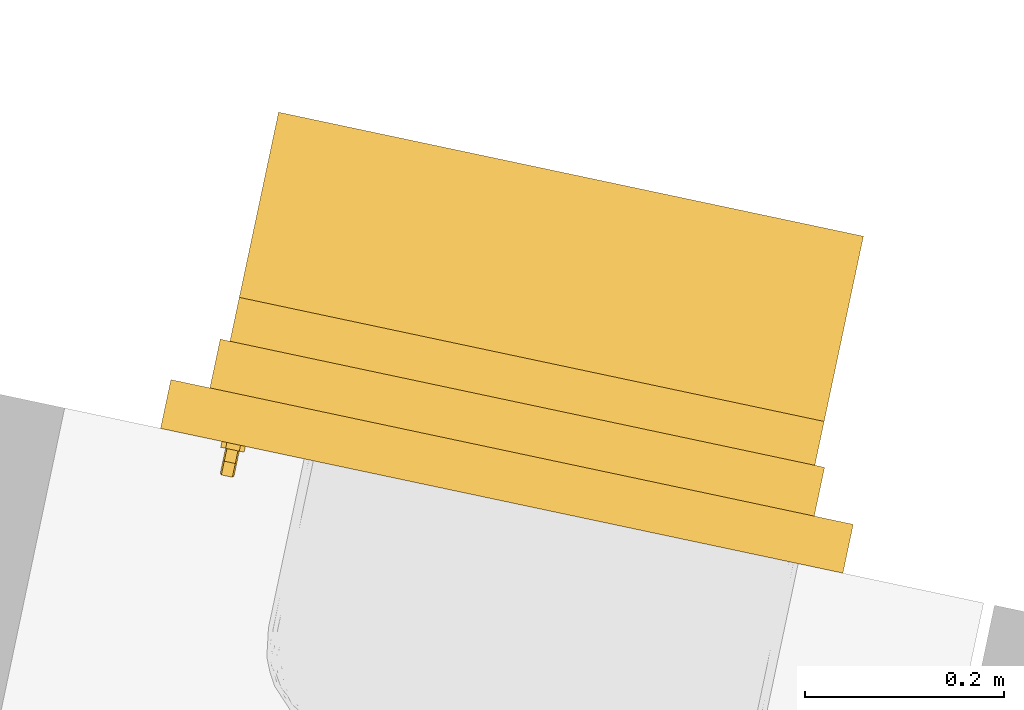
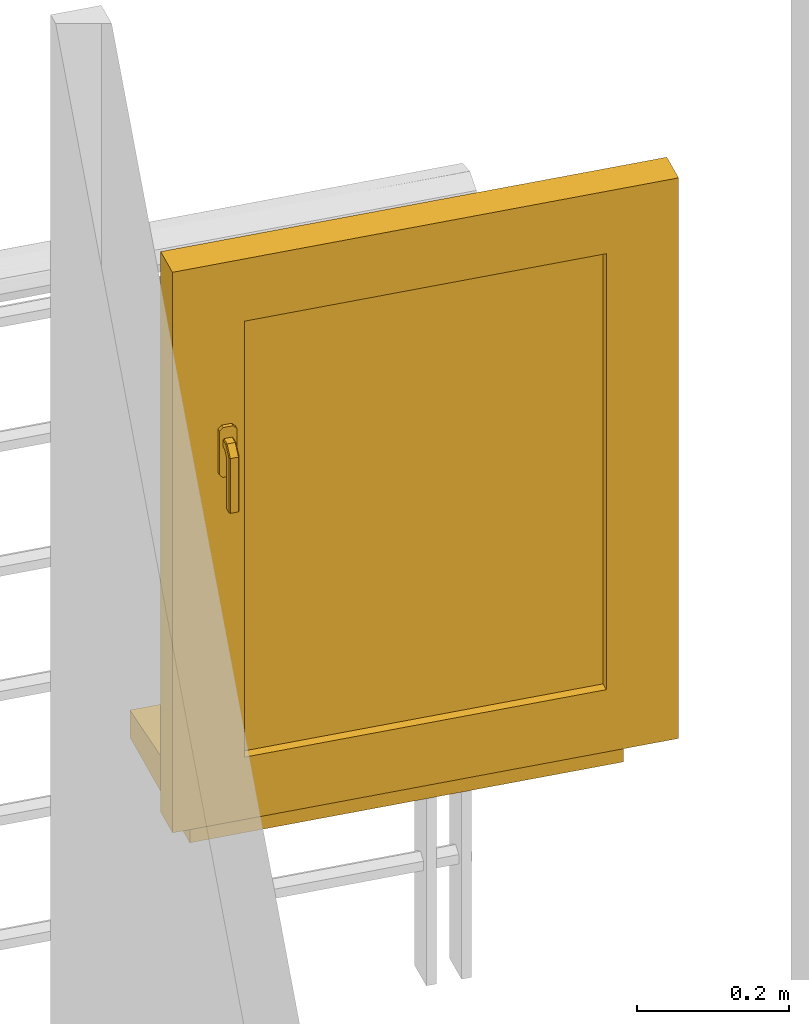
# One storey, part 14 of 18: 1 window.
"""IFC2X3 building model written with IfcOpenShell, lengths in metres."""

import ifcopenshell
import ifcopenshell.guid

model = None  # the IFC model being written
_history = None  # IfcOwnerHistory: only IFC2X3 demands one
_inside = {}  # id of a spatial element -> (the spatial element, [elements in it])
_under = {}  # id of a project, library or spatial element -> (it, [spatial elements below it])
_declared = {}  # id of a project -> (the project, [libraries it declares])
_typed = {}  # id of a type object -> (the type object, [elements of that type])
_made_of = {}  # id of a material, layer set ... -> (it, [elements and type objects made of it])


def new_model(schema):
    """Start an empty IFC model of exactly this schema.

    Asked for "IFC4X3", IfcOpenShell would pick the latest addendum, in which some entities
    have other attributes; the version numbers below select the first issue.
    IFC2X3 requires an IfcOwnerHistory on every rooted entity: one is made here for all.
    """
    global model, _history
    if schema == "IFC4X3":
        model = ifcopenshell.file(schema_version=(4, 3, 0, 0))
    else:
        model = ifcopenshell.file(schema=schema)
    _inside.clear()
    _under.clear()
    _declared.clear()
    _typed.clear()
    _made_of.clear()
    _history = None
    if model.schema == "IFC2X3":
        org = make("IfcOrganization", Name="unknown")
        user = make(
            "IfcPersonAndOrganization",
            ThePerson=make("IfcPerson", FamilyName="unknown"),
            TheOrganization=org,
        )
        app = make(
            "IfcApplication",
            ApplicationDeveloper=org,
            Version="unknown",
            ApplicationFullName="unknown",
            ApplicationIdentifier="unknown",
        )
        _history = make(
            "IfcOwnerHistory",
            OwningUser=user,
            OwningApplication=app,
            ChangeAction="ADDED",
            CreationDate=0,
        )
    return model


def make(cls, **values):
    """One entity of the class cls with the attributes given. An attribute that is None is left unset."""
    return model.create_entity(
        cls, **{name: value for name, value in values.items() if value is not None}
    )


def entity(cls, *values):
    """Any entity or typed value of the class cls, its attributes in the order of the schema. None: left unset."""
    e = model.create_entity(cls)
    for i, value in enumerate(values):
        if value is not None:
            e[i] = value
    return e


def rooted(cls, **values):
    """An entity with a GlobalId (a new one), such as an element, a storey or a relation."""
    return make(cls, GlobalId=ifcopenshell.guid.new(), OwnerHistory=_history, **values)


def si_unit(unit_type, name, prefix=None):
    """IfcSIUnit, for example si_unit("LENGTHUNIT", "METRE", prefix="MILLI")."""
    return make("IfcSIUnit", UnitType=unit_type, Prefix=prefix, Name=name)


def converted_unit(unit_type, name, factor, base, dimensions=None, offset=None):
    """IfcConversionBasedUnit, such as the inch: factor (a typed value) times the base unit."""
    return make(
        "IfcConversionBasedUnit"
        if offset is None
        else "IfcConversionBasedUnitWithOffset",
        ConversionOffset=offset,
        Dimensions=None
        if dimensions is None
        else entity("IfcDimensionalExponents", *dimensions),
        UnitType=unit_type,
        Name=name,
        ConversionFactor=make(
            "IfcMeasureWithUnit", ValueComponent=factor, UnitComponent=base
        ),
    )


def derived_unit(unit_type, elements):
    """IfcDerivedUnit: a product of units, each with its exponent."""
    return make(
        "IfcDerivedUnit",
        Elements=[
            make("IfcDerivedUnitElement", Unit=unit, Exponent=power)
            for unit, power in elements
        ],
        UnitType=unit_type,
    )


def assignment(units):
    """IfcUnitAssignment: the units of a project."""
    return None if units is None else make("IfcUnitAssignment", Units=units)


def point(xyz):
    """IfcCartesianPoint."""
    return None if xyz is None else make("IfcCartesianPoint", Coordinates=xyz)


def direction(xyz):
    """IfcDirection."""
    return None if xyz is None else make("IfcDirection", DirectionRatios=xyz)


def frame(location, z_axis=None, x_axis=None):
    """IfcAxis2Placement3D, a coordinate frame: its origin and axes. An axis left out is left unset."""
    return make(
        "IfcAxis2Placement3D",
        Location=point(location),
        Axis=direction(z_axis),
        RefDirection=direction(x_axis),
    )


def origin():
    """The frame at (0, 0, 0) with its axes left unset."""
    return frame((0.0, 0.0, 0.0))


def place(relative_to, where):
    """IfcLocalPlacement: puts the frame where relative to a parent placement (None: the world)."""
    return make(
        "IfcLocalPlacement", PlacementRelTo=relative_to, RelativePlacement=where
    )


def context(
    kind, dimensions, precision=None, world=None, true_north=None, identifier=None
):
    """IfcGeometricRepresentationContext, for example the 3D "Model" context."""
    return make(
        "IfcGeometricRepresentationContext",
        ContextIdentifier=identifier,
        ContextType=kind,
        CoordinateSpaceDimension=dimensions,
        Precision=precision,
        WorldCoordinateSystem=world,
        TrueNorth=true_north,
    )


def subcontext(parent, identifier, kind, view, scale=None):
    """IfcGeometricRepresentationSubContext, for example "Body" below "Model"."""
    return make(
        "IfcGeometricRepresentationSubContext",
        ContextIdentifier=identifier,
        ContextType=kind,
        ParentContext=parent,
        TargetScale=scale,
        TargetView=view,
    )


def project(units=None, contexts=None):
    """IfcProject with its units and contexts."""
    return rooted(
        "IfcProject",
        Name="project",
        RepresentationContexts=contexts,
        UnitsInContext=assignment(units),
    )


def spatial(cls, under=None, at=None, **own):
    """A site, building, storey or space (cls), placed at a placement, below another one or the project."""
    s = rooted(cls, ObjectPlacement=at, **own)
    if under is not None:
        _under.setdefault(under.id(), (under, []))[1].append(s)
    return s


def faces_of(points, faces, orient=None, outer=None):
    """IfcFace entities. A face is a list of loops; a loop is a list of indices into points, from 0.

    orient and outer hold one flag for each loop. By default every Orientation is true, the
    first loop of a face is its IfcFaceOuterBound and the others are IfcFaceBound.
    """
    made = []
    for i, loops in enumerate(faces):
        bounds = []
        for j, loop in enumerate(loops):
            is_outer = j == 0 if outer is None else outer[i][j]
            bounds.append(
                make(
                    "IfcFaceOuterBound" if is_outer else "IfcFaceBound",
                    Bound=make("IfcPolyLoop", Polygon=[points[k] for k in loop]),
                    Orientation=True if orient is None else orient[i][j],
                )
            )
        made.append(make("IfcFace", Bounds=bounds))
    return made


def faceted_brep(points, faces, orient=None, outer=None, voids=None):
    """IfcFacetedBrep: a solid bounded by flat faces; with voids (closed shells), ...WithVoids."""
    shared = [point(p) for p in points]
    hull = make("IfcClosedShell", CfsFaces=faces_of(shared, faces, orient, outer))
    if voids is None:
        return make("IfcFacetedBrep", Outer=hull)
    return make(
        "IfcFacetedBrepWithVoids",
        Outer=hull,
        Voids=[
            make(cls, CfsFaces=faces_of(shared, fs, o, b)) for cls, fs, o, b in voids
        ],
    )


def shape(context_of_items, identifier, shape_type, items):
    """IfcShapeRepresentation: the items that make up one representation, for example the "Body"."""
    return make(
        "IfcShapeRepresentation",
        ContextOfItems=context_of_items,
        RepresentationIdentifier=identifier,
        RepresentationType=shape_type,
        Items=items,
    )


def source(mapping_origin, context_of_items, identifier, shape_type, items):
    """IfcRepresentationMap: a shape defined once, which mapped items show again and again."""
    return make(
        "IfcRepresentationMap",
        MappingOrigin=mapping_origin,
        MappedRepresentation=shape(context_of_items, identifier, shape_type, items),
    )


def transform(
    local_origin,
    x_axis=None,
    y_axis=None,
    z_axis=None,
    scale=None,
    scale2=None,
    scale3=None,
    uniform=True,
):
    """IfcCartesianTransformationOperator3D, or its non-uniform kind. x_axis, y_axis, z_axis: its Axis1, 2, 3."""
    if uniform:
        return make(
            "IfcCartesianTransformationOperator3D",
            Axis1=direction(x_axis),
            Axis2=direction(y_axis),
            LocalOrigin=point(local_origin),
            Scale=scale,
            Axis3=direction(z_axis),
        )
    return make(
        "IfcCartesianTransformationOperator3DnonUniform",
        Axis1=direction(x_axis),
        Axis2=direction(y_axis),
        LocalOrigin=point(local_origin),
        Scale=scale,
        Axis3=direction(z_axis),
        Scale2=scale2,
        Scale3=scale3,
    )


def mapped(mapping_source, mapping_target):
    """IfcMappedItem: shows the shape of a source again, moved by a transform."""
    return make(
        "IfcMappedItem", MappingSource=mapping_source, MappingTarget=mapping_target
    )


def material(Name=None, Category=None):
    """IfcMaterial."""
    return make("IfcMaterial", Name=Name, Category=Category)


def material_list(materials):
    """IfcMaterialList."""
    return make("IfcMaterialList", Materials=materials)


def made_of(thing, what):
    """Note that an element or type object is made of a material, layer set ...; save() writes the relation."""
    if what is not None:
        _made_of.setdefault(what.id(), (what, []))[1].append(thing)
    return thing


def type_object(cls, material=None, **own):
    """A type object (cls), such as IfcWallType, which elements share."""
    return made_of(rooted(cls, **own), material)


def type_shapes(of_type, sources):
    """Give a type object the sources (RepresentationMaps) that its elements show as mapped items."""
    of_type.RepresentationMaps = sources


def element(
    cls,
    number,
    at=None,
    inside=None,
    cuts=None,
    type_object=None,
    material=None,
    context=None,
    identifier="Body",
    shape_type=None,
    held_by="IfcProductDefinitionShape",
    body=None,
    shapes=None,
    **own,
):
    """One element of the class cls, such as IfcWall. Its Tag is "e" and its number.

    at: its placement. inside: the storey or other place that contains it. cuts: it is an
    opening in that element (IfcRelVoidsElement). A single representation is given by context,
    identifier, shape_type and body (its items); several are given by shapes. held_by: the class
    of the entity that holds the representations. save() writes the other relations.
    """
    e = rooted(cls, Tag="e%d" % number, ObjectPlacement=at, **own)
    if body is not None:
        shapes = [shape(context, identifier, shape_type, body)]
    if shapes is not None:
        e.Representation = make(held_by, Representations=shapes)
    if inside is not None:
        _inside.setdefault(inside.id(), (inside, []))[1].append(e)
    if cuts is not None:
        rooted(
            "IfcRelVoidsElement", RelatingBuildingElement=cuts, RelatedOpeningElement=e
        )
    if type_object is not None:
        _typed.setdefault(type_object.id(), (type_object, []))[1].append(e)
    return made_of(e, material)


def aggregate(whole, parts):
    """IfcRelAggregates: a whole, such as a stair, and the parts it consists of."""
    return rooted("IfcRelAggregates", RelatingObject=whole, RelatedObjects=parts)


def save(model, path):
    """Write the relations noted so far, then the file.

    IfcRelAggregates (storeys below a building ...), IfcRelContainedInSpatialStructure (elements
    in a storey), IfcRelDefinesByType, IfcRelAssociatesMaterial and IfcRelDeclares: one each for
    every whole, place, type object, material and project.
    """
    for whole, parts in _under.values():
        aggregate(whole, parts)
    for where, things in _inside.values():
        rooted(
            "IfcRelContainedInSpatialStructure",
            RelatedElements=things,
            RelatingStructure=where,
        )
    for kind, things in _typed.values():
        rooted("IfcRelDefinesByType", RelatedObjects=things, RelatingType=kind)
    for what, things in _made_of.values():
        rooted("IfcRelAssociatesMaterial", RelatedObjects=things, RelatingMaterial=what)
    for by, libraries in _declared.values():
        rooted("IfcRelDeclares", RelatingContext=by, RelatedDefinitions=libraries)
    model.write(path)


model = new_model("IFC2X3")

# Units and contexts
model_context = context("Model", 3, precision=1e-05, world=origin(), true_north=direction((6.12303176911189e-17, 1.0)))
body_context = subcontext(model_context, "Body", "Model", "MODEL_VIEW")
ifc_project = project(units=[si_unit("LENGTHUNIT", "METRE"), si_unit("AREAUNIT", "SQUARE_METRE"), si_unit("VOLUMEUNIT", "CUBIC_METRE"), converted_unit("PLANEANGLEUNIT", "DEGREE", entity("IfcRatioMeasure", 0.0174532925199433), si_unit("PLANEANGLEUNIT", "RADIAN"), dimensions=[0, 0, 0, 0, 0, 0, 0]), si_unit("MASSUNIT", "GRAM", prefix="KILO"), derived_unit("MASSDENSITYUNIT", [(si_unit("MASSUNIT", "GRAM", prefix="KILO"), 1), (si_unit("LENGTHUNIT", "METRE"), -3)]), si_unit("TIMEUNIT", "SECOND"), si_unit("FREQUENCYUNIT", "HERTZ"), si_unit("THERMODYNAMICTEMPERATUREUNIT", "DEGREE_CELSIUS"), derived_unit("THERMALTRANSMITTANCEUNIT", [(si_unit("MASSUNIT", "GRAM", prefix="KILO"), 1), (si_unit("THERMODYNAMICTEMPERATUREUNIT", "KELVIN"), -1), (si_unit("TIMEUNIT", "SECOND"), -3)]), derived_unit("VOLUMETRICFLOWRATEUNIT", [(si_unit("LENGTHUNIT", "METRE"), 3), (si_unit("TIMEUNIT", "SECOND"), -1)]), si_unit("ELECTRICCURRENTUNIT", "AMPERE"), si_unit("ELECTRICVOLTAGEUNIT", "VOLT"), si_unit("POWERUNIT", "WATT"), si_unit("FORCEUNIT", "NEWTON", prefix="KILO"), si_unit("ILLUMINANCEUNIT", "LUX"), si_unit("LUMINOUSFLUXUNIT", "LUMEN"), si_unit("LUMINOUSINTENSITYUNIT", "CANDELA"), derived_unit("USERDEFINED", [(si_unit("MASSUNIT", "GRAM", prefix="KILO"), -1), (si_unit("LENGTHUNIT", "METRE"), -2), (si_unit("TIMEUNIT", "SECOND"), 3), (si_unit("LUMINOUSFLUXUNIT", "LUMEN"), 1)]), derived_unit("LINEARVELOCITYUNIT", [(si_unit("LENGTHUNIT", "METRE"), 1), (si_unit("TIMEUNIT", "SECOND"), -1)]), si_unit("PRESSUREUNIT", "PASCAL"), derived_unit("USERDEFINED", [(si_unit("LENGTHUNIT", "METRE"), -2), (si_unit("MASSUNIT", "GRAM", prefix="KILO"), 1), (si_unit("TIMEUNIT", "SECOND"), -2)])], contexts=[model_context])

# Site, building, storey
site_placement = place(None, origin())
site = spatial("IfcSite", under=ifc_project, at=site_placement, Name="Default", CompositionType="ELEMENT")
building_placement = place(site_placement, origin())
building = spatial("IfcBuilding", under=site, at=building_placement, CompositionType="ELEMENT")
storey_placement = place(building_placement, frame((0.0, 0.0, 2.8)))
storey = spatial("IfcBuildingStorey", under=building, at=storey_placement, Name="ETAGE", CompositionType="ELEMENT", Elevation=2.8)

# Window
ifc_material_1 = material(Name="Fenêtre - Poignée")
ifc_material_2 = material(Name="Fenêtre - Appui")
ifc_material_3 = material(Name="Verre - Opaque Blanc")
ifc_material_4 = material(Name="PVC - Blanc")
ifc_material_5 = material(Name="Fenêtre - Cadre")
ifc_material_list_1 = material_list([ifc_material_1, ifc_material_2, ifc_material_3, ifc_material_4, ifc_material_5])
ifc_material_list_2 = material_list([ifc_material_1, ifc_material_2, ifc_material_3, ifc_material_4, ifc_material_5])
window_style = type_object("IfcWindowStyle", Name=".60 X 0.85 HT 2", ConstructionType="NOTDEFINED", OperationType="SINGLE_PANEL", ParameterTakesPrecedence=False, Sizeable=False, material=ifc_material_list_2)
shared_shape = source(origin(), body_context, "Body", "Brep", [
    faceted_brep([(0.0806460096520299, 0.333999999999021, 0.702033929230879), (0.0820339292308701, 0.333999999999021, 0.700646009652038), (0.0820339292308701, 0.333999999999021, 0.689332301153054), (0.0806676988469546, 0.333999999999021, 0.687966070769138), (0.0693323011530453, 0.333999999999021, 0.687966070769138), (0.0679660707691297, 0.333999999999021, 0.689332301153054), (0.0679660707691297, 0.333999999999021, 0.700646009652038), (0.0693539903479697, 0.333999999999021, 0.702033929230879), (0.0806460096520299, 0.321086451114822, 0.702033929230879), (0.0820339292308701, 0.321661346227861, 0.700646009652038), (0.0820339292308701, 0.308353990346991, 0.687338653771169), (0.0820339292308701, 0.308353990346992, 0.600000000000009), (0.0820339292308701, 0.319667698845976, 0.600000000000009), (0.0820339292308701, 0.319667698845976, 0.682652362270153), (0.0820339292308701, 0.326347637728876, 0.689332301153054), (0.0806676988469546, 0.32691354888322, 0.687966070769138), (0.0693323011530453, 0.32691354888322, 0.687966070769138), (0.0679660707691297, 0.326347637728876, 0.689332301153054), (0.0679660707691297, 0.319667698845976, 0.682652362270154), (0.0679660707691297, 0.319667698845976, 0.600000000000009), (0.0679660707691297, 0.308353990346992, 0.600000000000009), (0.0679660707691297, 0.308353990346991, 0.687338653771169), (0.0679660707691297, 0.321661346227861, 0.700646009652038), (0.0693539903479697, 0.321086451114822, 0.702033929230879), (0.0806460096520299, 0.306966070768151, 0.687913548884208), (0.0806676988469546, 0.321033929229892, 0.68208645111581), (0.0693323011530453, 0.321033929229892, 0.68208645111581), (0.0693539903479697, 0.306966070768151, 0.687913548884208), (0.0806460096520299, 0.306966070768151, 0.600000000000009), (0.0693539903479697, 0.306966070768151, 0.600000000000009), (0.0693323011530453, 0.321033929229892, 0.600000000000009), (0.0806676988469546, 0.321033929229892, 0.600000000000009)], [[[0, 1, 2, 3, 4, 5, 6, 7]], [[1, 0, 8, 9]], [[2, 1, 9, 10, 11, 12, 13, 14]], [[3, 2, 14, 15]], [[4, 3, 15, 16]], [[5, 4, 16, 17]], [[6, 5, 17, 18, 19, 20, 21, 22]], [[7, 6, 22, 23]], [[0, 7, 23, 8]], [[9, 8, 24, 10]], [[15, 14, 13, 25]], [[16, 15, 25, 26]], [[17, 16, 26, 18]], [[23, 22, 21, 27]], [[8, 23, 27, 24]], [[28, 29, 20, 19, 30, 31, 12, 11]], [[10, 24, 28, 11]], [[25, 13, 12, 31]], [[26, 25, 31, 30]], [[18, 26, 30, 19]], [[27, 21, 20, 29]], [[24, 27, 29, 28]]]),
    faceted_brep([(0.082000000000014, 0.334, 0.720000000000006), (0.0679999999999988, 0.334, 0.720000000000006), (0.0629999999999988, 0.334, 0.715000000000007), (0.0629999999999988, 0.334, 0.644999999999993), (0.0679999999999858, 0.334, 0.640000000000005), (0.082000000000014, 0.334, 0.640000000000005), (0.0869999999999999, 0.334, 0.644999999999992), (0.0869999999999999, 0.334, 0.715000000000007), (0.082000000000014, 0.34, 0.720000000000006), (0.0869999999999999, 0.34, 0.715000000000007), (0.0869999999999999, 0.34, 0.644999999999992), (0.082000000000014, 0.34, 0.640000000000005), (0.0679999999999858, 0.34, 0.640000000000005), (0.0629999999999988, 0.34, 0.644999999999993), (0.0629999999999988, 0.34, 0.715000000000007), (0.0679999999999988, 0.34, 0.720000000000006)], [[[0, 1, 2, 3, 4, 5, 6, 7]], [[8, 9, 10, 11, 12, 13, 14, 15]], [[1, 0, 8, 15]], [[2, 1, 15, 14]], [[3, 2, 14, 13]], [[4, 3, 13, 12]], [[5, 4, 12, 11]], [[6, 5, 11, 10]], [[7, 6, 10, 9]], [[0, 7, 9, 8]]]),
    faceted_brep([(0.0499999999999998, 0.42000000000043, 0.0799999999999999), (0.0499999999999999, 0.470000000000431, 0.0799999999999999), (0.0499999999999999, 0.470000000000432, 0.0650000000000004), (0.0500000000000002, 0.675000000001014, 0.0434536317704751), (0.0500000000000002, 0.675000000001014, 0.0), (0.0499999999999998, 0.42000000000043, 0.0), (0.649999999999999, 0.420000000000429, 0.0799999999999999), (0.649999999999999, 0.420000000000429, 0.0), (0.65, 0.675000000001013, 0.0), (0.65, 0.675000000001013, 0.0434536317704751), (0.65, 0.470000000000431, 0.0650000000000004), (0.65, 0.47000000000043, 0.0799999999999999)], [[[0, 1, 2, 3, 4, 5]], [[6, 7, 8, 9, 10, 11]], [[1, 0, 6, 11]], [[2, 1, 11, 10]], [[3, 2, 10, 9]], [[4, 3, 9, 8]], [[5, 4, 8, 7]], [[0, 5, 7, 6]]]),
    faceted_brep([(0.0999999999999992, 0.365999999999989, 0.18), (0.0999999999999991, 0.365999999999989, 0.88), (0.6, 0.365999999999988, 0.88), (0.6, 0.365999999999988, 0.18), (0.0999999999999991, 0.353999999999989, 0.18), (0.6, 0.353999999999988, 0.18), (0.6, 0.353999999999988, 0.88), (0.0999999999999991, 0.353999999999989, 0.88)], [[[0, 1, 2, 3]], [[4, 5, 6, 7]], [[1, 0, 4, 7]], [[2, 1, 7, 6]], [[3, 2, 6, 5]], [[0, 3, 5, 4]]]),
    faceted_brep([(0.0999999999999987, 0.379999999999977, 0.179999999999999), (0.0999999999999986, 0.33999999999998, 0.179999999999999), (0.6, 0.339999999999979, 0.179999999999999), (0.6, 0.379999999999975, 0.179999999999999), (0.0499999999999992, 0.33999999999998, 0.13), (0.0499999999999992, 0.379999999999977, 0.13), (0.65, 0.379999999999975, 0.13), (0.65, 0.339999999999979, 0.13), (0.6, 0.339999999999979, 0.880000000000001), (0.6, 0.379999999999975, 0.88), (0.65, 0.379999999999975, 0.93), (0.65, 0.339999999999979, 0.93), (0.0999999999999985, 0.33999999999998, 0.880000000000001), (0.099999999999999, 0.379999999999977, 0.88), (0.0499999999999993, 0.379999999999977, 0.93), (0.0499999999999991, 0.33999999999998, 0.93)], [[[0, 1, 2, 3]], [[4, 5, 6, 7]], [[3, 2, 8, 9]], [[7, 6, 10, 11]], [[9, 8, 12, 13]], [[11, 10, 14, 15]], [[13, 12, 1, 0]], [[3, 9, 13, 0], [5, 14, 10, 6]], [[15, 14, 5, 4]], [[7, 11, 15, 4], [1, 12, 8, 2]]], outer=[[True], [True], [True], [True], [True], [True], [True], [False, True], [True], [True, False]]),
    faceted_brep([(0.0, 0.34, 0.0799999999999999), (0.0, 0.39, 0.0799999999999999), (0.0499999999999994, 0.39, 0.0799999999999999), (0.0499999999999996, 0.474999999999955, 0.0799999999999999), (0.649999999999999, 0.474999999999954, 0.0800000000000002), (0.649999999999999, 0.39, 0.0799999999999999), (0.699999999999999, 0.39, 0.0799999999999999), (0.7, 0.34, 0.0799999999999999), (0.0649999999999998, 0.39, 0.914999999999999), (0.0649999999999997, 0.39, 0.145), (0.635, 0.39, 0.145), (0.635, 0.39, 0.915), (0.0, 0.39, 0.979999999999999), (0.699999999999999, 0.39, 0.979999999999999), (0.649999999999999, 0.39, 0.119376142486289), (0.0499999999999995, 0.39, 0.119376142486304), (0.0649999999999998, 0.38, 0.914999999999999), (0.0649999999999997, 0.38, 0.145), (0.65, 0.38, 0.93), (0.0499999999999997, 0.38, 0.929999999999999), (0.0499999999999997, 0.38, 0.13), (0.65, 0.38, 0.13), (0.635, 0.38, 0.915), (0.635, 0.38, 0.145), (0.0499999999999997, 0.34, 0.929999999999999), (0.0499999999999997, 0.34, 0.13), (0.699999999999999, 0.34, 0.979999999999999), (0.0, 0.34, 0.979999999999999), (0.65, 0.34, 0.93), (0.649999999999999, 0.34, 0.13), (0.0499999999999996, 0.484999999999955, 0.0939209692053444), (0.0499999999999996, 0.484999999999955, 0.0749999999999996), (0.0499999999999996, 0.474999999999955, 0.0749999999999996), (0.649999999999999, 0.474999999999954, 0.0749999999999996), (0.649999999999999, 0.484999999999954, 0.0749999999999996), (0.649999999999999, 0.484999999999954, 0.0939209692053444)], [[[0, 1, 2, 3, 4, 5, 6, 7]], [[8, 9, 10, 11], [1, 12, 13, 6, 5, 14, 15, 2]], [[8, 16, 17, 9]], [[18, 19, 20, 21], [16, 22, 23, 17]], [[20, 19, 24, 25]], [[0, 7, 26, 27], [28, 29, 25, 24]], [[1, 0, 27, 12]], [[8, 11, 22, 16]], [[19, 18, 28, 24]], [[13, 12, 27, 26]], [[22, 11, 10, 23]], [[28, 18, 21, 29]], [[6, 13, 26, 7]], [[15, 30, 31, 32, 3, 2]], [[4, 33, 34, 35, 14, 5]], [[25, 29, 21, 20]], [[17, 23, 10, 9]], [[30, 15, 14, 35]], [[31, 30, 35, 34]], [[32, 31, 34, 33]], [[3, 32, 33, 4]]], outer=[[True], [False, True], [True], [True, False], [True], [True, False], [True], [True], [True], [True], [True], [True], [True], [True], [True], [True], [True], [True], [True], [True], [True]]),
    faceted_brep([(0.0499999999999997, 0.440000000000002, 0.0799999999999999), (0.0499999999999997, 0.389999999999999, 0.0799999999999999), (0.0399999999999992, 0.389999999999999, 0.0799999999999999), (0.0399999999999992, 0.440000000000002, 0.0799999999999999), (0.0499999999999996, 0.440000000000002, 0.93), (0.0499999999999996, 0.389999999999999, 0.93), (0.65, 0.389999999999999, 0.93), (0.65, 0.389999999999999, 0.0799999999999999), (0.66, 0.389999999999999, 0.0799999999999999), (0.66, 0.389999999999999, 0.94), (0.0399999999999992, 0.389999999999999, 0.94), (0.0399999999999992, 0.440000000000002, 0.94), (0.66, 0.440000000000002, 0.94), (0.66, 0.440000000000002, 0.0799999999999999), (0.65, 0.440000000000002, 0.0799999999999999), (0.65, 0.440000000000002, 0.93)], [[[0, 1, 2, 3]], [[1, 0, 4, 5]], [[2, 1, 5, 6, 7, 8, 9, 10]], [[3, 2, 10, 11]], [[0, 3, 11, 12, 13, 14, 15, 4]], [[5, 4, 15, 6]], [[11, 10, 9, 12]], [[14, 13, 8, 7]], [[6, 15, 14, 7]], [[12, 9, 8, 13]]]),
])
type_shapes(window_style, [shared_shape])
window_placement = place(storey_placement, frame((-11.5485406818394, 84.8546305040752, 1.22), z_axis=(0.0, 0.0, 1.0), x_axis=(0.978238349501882, -0.207484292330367, 0.0)))
element("IfcWindow", 1, at=window_placement, inside=storey, type_object=window_style, material=ifc_material_list_1, Name="1 Vantail - Droit:.60 X 0.85 HT 2", ObjectType="1 Vantail - Droit:.60 X 0.85 HT 2", OverallHeight=1.08, OverallWidth=0.7, context=body_context, shape_type="MappedRepresentation", body=[
    mapped(shared_shape, transform((0.0, 0.0, 0.0), scale=1.0)),
])

save(model, "model.ifc")
